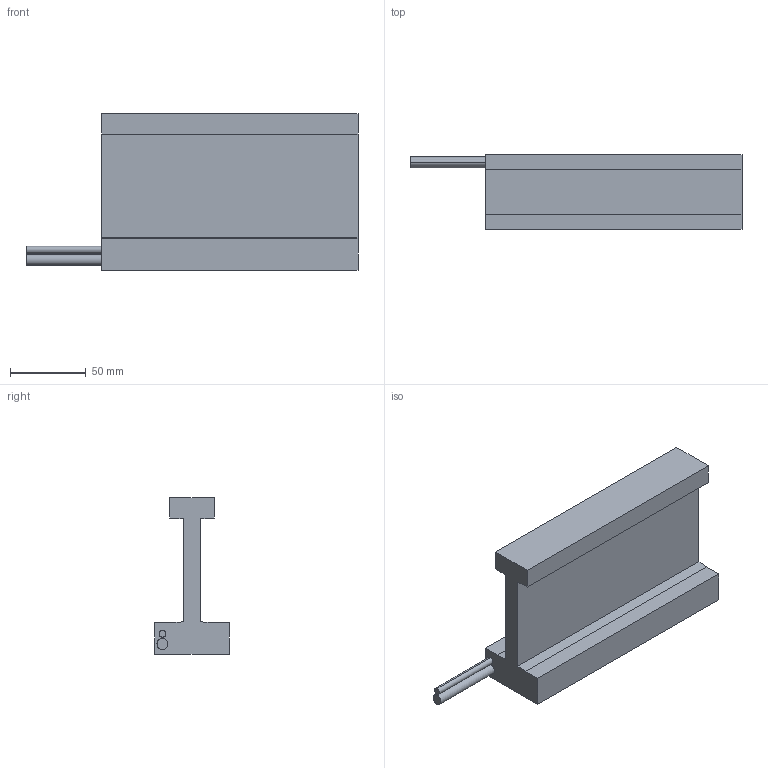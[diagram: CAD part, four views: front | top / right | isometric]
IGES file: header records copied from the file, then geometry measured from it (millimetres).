
Start section: SolidWorks IGES file using analytic representation for surfaces
Global section: file name: C:\Users\admin\Desktop\LM无铁芯U型电机 - 副本\FU700模型图\FU700-169.IGS; native system: SolidWorks 2016; preprocessor: SolidWorks 2016; author: admin; date: 201103.134541; units: millimetre
Bounding box: 219 x 49 x 103.5 mm (x, y, z)
Surface area: 64982 mm2 (no closed solid volume)
Topology: 0 solids, 0 shells, 50 faces, 564 edges, 550 vertices
Faces by surface type: revolution 32, bspline 18
